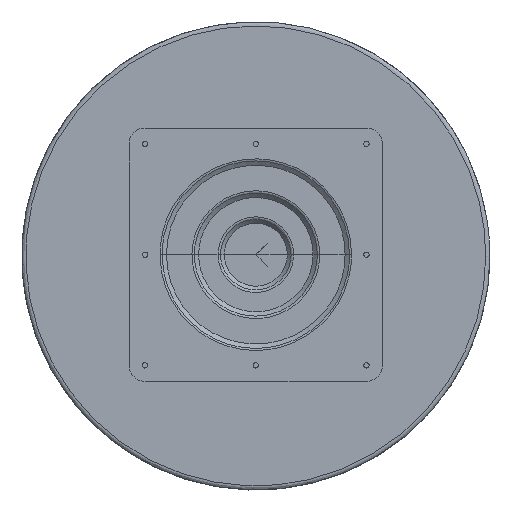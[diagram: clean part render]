
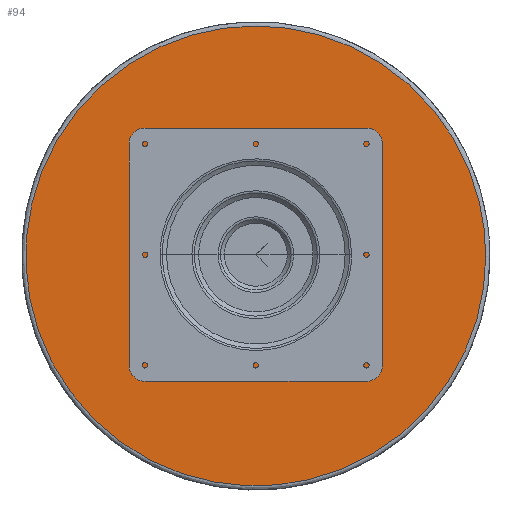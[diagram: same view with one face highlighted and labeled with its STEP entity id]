
A CAD part, top view. The second image highlights one B-rep face of the part: STEP entity #94.
In plain terms, the highlighted planar face has unit normal (0, 0, 1).
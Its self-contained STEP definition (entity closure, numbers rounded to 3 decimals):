
#15=FACE_BOUND('',#301,.T.);
#94=ADVANCED_FACE('',(#197,#15),#1449,.T.);
#197=FACE_OUTER_BOUND('',#300,.T.);
#300=EDGE_LOOP('',(#597));
#301=EDGE_LOOP('',(#598));
#597=ORIENTED_EDGE('',*,*,#963,.F.);
#598=ORIENTED_EDGE('',*,*,#968,.T.);
#963=EDGE_CURVE('',#1375,#1375,#1230,.T.);
#968=EDGE_CURVE('',#1438,#1438,#1235,.T.);
#1230=(
BOUNDED_CURVE()
B_SPLINE_CURVE(2,(#5039,#5040,#5041,#5042,#5043,#5044,#5045,#5046,#5047),
 .UNSPECIFIED.,.T.,.F.)
B_SPLINE_CURVE_WITH_KNOTS((3,2,2,2,3),(0.,339.292,678.584,
1017.875,1357.167),.UNSPECIFIED.)
CURVE()
GEOMETRIC_REPRESENTATION_ITEM()
RATIONAL_B_SPLINE_CURVE((1.,0.707,1.,0.707,1.,0.707,
1.,0.707,1.))
REPRESENTATION_ITEM('')
);
#1235=(
BOUNDED_CURVE()
B_SPLINE_CURVE(2,(#5071,#5072,#5073,#5074,#5075,#5076,#5077,#5078,#5079),
 .UNSPECIFIED.,.T.,.F.)
B_SPLINE_CURVE_WITH_KNOTS((3,2,2,2,3),(0.,33.537,67.073,
100.61,134.146),.UNSPECIFIED.)
CURVE()
GEOMETRIC_REPRESENTATION_ITEM()
RATIONAL_B_SPLINE_CURVE((1.,0.707,1.,0.707,1.,0.707,
1.,0.707,1.))
REPRESENTATION_ITEM('')
);
#1375=VERTEX_POINT('',#4603);
#1438=VERTEX_POINT('',#4666);
#1449=PLANE('',#1567);
#1567=AXIS2_PLACEMENT_3D('',#1986,#1579,$);
#1579=DIRECTION('',(0.,0.,1.));
#1986=CARTESIAN_POINT('',(-275.,275.,11.));
#4603=CARTESIAN_POINT('',(216.,0.,11.));
#4666=CARTESIAN_POINT('',(21.35,0.,11.));
#5039=CARTESIAN_POINT('',(216.,0.,11.));
#5040=CARTESIAN_POINT('',(216.,-216.,11.));
#5041=CARTESIAN_POINT('',(0.,-216.,11.));
#5042=CARTESIAN_POINT('',(-216.,-216.,11.));
#5043=CARTESIAN_POINT('',(-216.,0.,11.));
#5044=CARTESIAN_POINT('',(-216.,216.,11.));
#5045=CARTESIAN_POINT('',(0.,216.,11.));
#5046=CARTESIAN_POINT('',(216.,216.,11.));
#5047=CARTESIAN_POINT('',(216.,0.,11.));
#5071=CARTESIAN_POINT('',(21.35,0.,11.));
#5072=CARTESIAN_POINT('',(21.35,-21.35,11.));
#5073=CARTESIAN_POINT('',(0.,-21.35,11.));
#5074=CARTESIAN_POINT('',(-21.35,-21.35,11.));
#5075=CARTESIAN_POINT('',(-21.35,0.,11.));
#5076=CARTESIAN_POINT('',(-21.35,21.35,11.));
#5077=CARTESIAN_POINT('',(0.,21.35,11.));
#5078=CARTESIAN_POINT('',(21.35,21.35,11.));
#5079=CARTESIAN_POINT('',(21.35,0.,11.));
